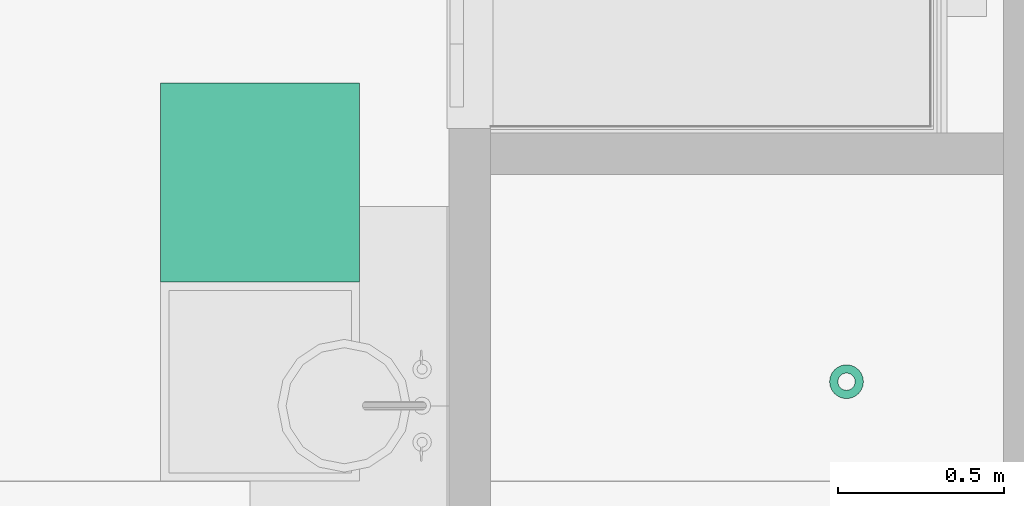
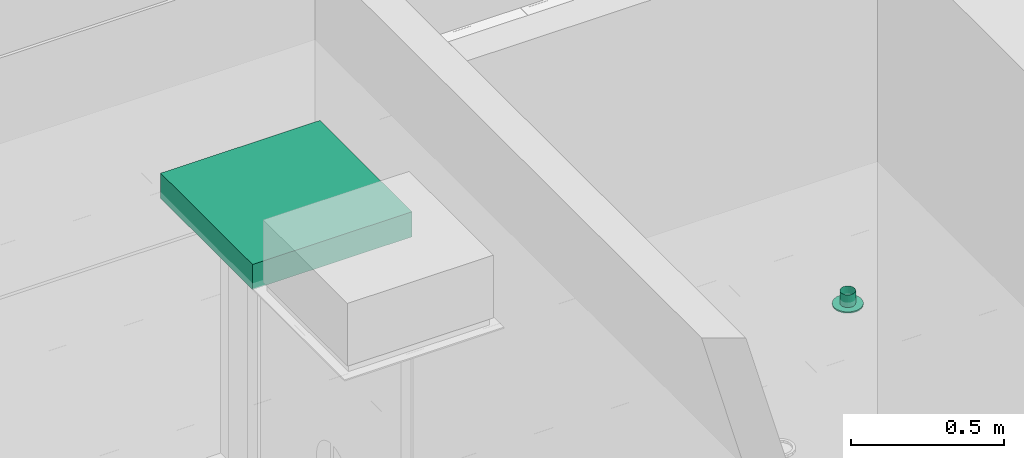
# One storey, part 206 of 347: 2 flow terminals.
"""IFC2X3 building model written with IfcOpenShell, lengths in millimetres."""

from ifc_helpers import new_model, entity, si_unit, converted_unit, derived_unit, money_unit, direction, frame, origin_with_axes, place, context, subcontext, project, spatial, open_shell, faceted_brep, surface_model, source, transform, mapped, type_object, type_shapes, element, save


model = new_model("IFC2X3")

# Units and contexts
model_context = context("Model", 3, precision=0.01, world=origin_with_axes(), true_north=direction((0.0, 1.0)))
plan_context = context("Plan", 3, precision=0.01, world=origin_with_axes(), true_north=direction((0.0, 1.0)))
body_context = subcontext(model_context, "Body", "Model", "MODEL_VIEW")
ifc_project = project(units=[si_unit("LENGTHUNIT", "METRE", prefix="MILLI"), si_unit("AREAUNIT", "SQUARE_METRE"), si_unit("VOLUMEUNIT", "CUBIC_METRE"), converted_unit("PLANEANGLEUNIT", "DEGREE", entity("IfcPlaneAngleMeasure", 0.0174532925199), si_unit("PLANEANGLEUNIT", "RADIAN"), dimensions=[0, 0, 0, 0, 0, 0, 0]), money_unit("EUR"), converted_unit("TIMEUNIT", "Year", entity("IfcTimeMeasure", 31556926.0), si_unit("TIMEUNIT", "SECOND"), dimensions=[0, 0, 1, 0, 0, 0, 0]), si_unit("MASSUNIT", "GRAM", prefix="KILO"), si_unit("THERMODYNAMICTEMPERATUREUNIT", "DEGREE_CELSIUS"), si_unit("LUMINOUSINTENSITYUNIT", "LUMEN"), si_unit("ENERGYUNIT", "JOULE", prefix="MEGA"), derived_unit("THERMALCONDUCTANCEUNIT", [(si_unit("POWERUNIT", "WATT"), 1), (si_unit("LENGTHUNIT", "METRE"), -1), (si_unit("THERMODYNAMICTEMPERATUREUNIT", "KELVIN"), -1)]), derived_unit("SPECIFICHEATCAPACITYUNIT", [(si_unit("ENERGYUNIT", "JOULE"), 1), (si_unit("MASSUNIT", "GRAM", prefix="KILO"), -1), (si_unit("THERMODYNAMICTEMPERATUREUNIT", "KELVIN"), -1)]), derived_unit("MASSDENSITYUNIT", [(si_unit("MASSUNIT", "GRAM", prefix="KILO"), 1), (si_unit("VOLUMEUNIT", "CUBIC_METRE"), -1)])], contexts=[model_context, plan_context])

# Site, building, storey
site_placement = place(None, origin_with_axes())
site = spatial("IfcSite", under=ifc_project, at=site_placement, Name="Site", CompositionType="ELEMENT")
building_placement = place(site_placement, origin_with_axes())
building = spatial("IfcBuilding", under=site, at=building_placement, Name="Naam gebouw", CompositionType="ELEMENT")
storey_placement = place(building_placement, origin_with_axes())
storey = spatial("IfcBuildingStorey", under=building, at=storey_placement, Name="begane grond", CompositionType="ELEMENT", Elevation=0.0)

# Flow terminals
lamp_type = type_object("IfcLampType", Name="TL plafond 25", PredefinedType="NOTDEFINED")
shared_shape_1 = source(origin_with_axes(), body_context, "Body", "SurfaceModel", [
    faceted_brep([(0.0, 0.0, -100.0), (600.0, 0.0, -100.0), (600.0, 0.0, 0.0), (0.0, 0.0, 0.0), (0.0, 600.0, -100.0), (600.0, 600.0, -100.0), (40.0, 40.0, -100.0), (560.0, 40.0, -100.0), (560.0, 560.0, -100.0), (40.0, 560.0, -100.0), (600.0, 600.0, 0.0), (0.0, 600.0, 0.0), (40.0, 40.0, 0.0), (40.0, 560.0, 0.0), (560.0, 560.0, 0.0), (560.0, 40.0, 0.0)], [[[0, 1, 2, 3]], [[0, 4, 5, 1], [6, 7, 8, 9]], [[1, 5, 10, 2]], [[3, 2, 10, 11], [12, 13, 14, 15]], [[4, 0, 3, 11]], [[5, 4, 11, 10]], [[7, 6, 12, 15]], [[8, 7, 15, 14]], [[9, 8, 14, 13]], [[6, 9, 13, 12]]]),
    faceted_brep([(40.0, 40.0, -16.3333333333), (560.0, 40.0, -16.3333333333), (560.0, 40.0, 0.0), (40.0, 40.0, 0.0), (40.0, 560.0, -16.3333333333), (560.0, 560.0, -16.3333333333), (560.0, 560.0, 0.0), (40.0, 560.0, 0.0)], [[[0, 1, 2, 3]], [[0, 4, 5, 1]], [[1, 5, 6, 2]], [[3, 2, 6, 7]], [[4, 0, 3, 7]], [[5, 4, 7, 6]]]),
    surface_model("IfcShellBasedSurfaceModel", [(559.0, 41.0, -100.0), (40.0, 41.0, -100.0), (40.0, 559.0, -100.0), (559.0, 559.0, -100.0)], [open_shell([[[0, 1, 2, 3]]])]),
    faceted_brep([(40.0, 40.0, -100.0), (560.0, 40.0, -100.0), (560.0, 40.0, -60.0), (40.0, 40.0, -60.0), (40.0, 560.0, -100.0), (560.0, 560.0, -100.0), (41.0, 41.0, -100.0), (559.0, 41.0, -100.0), (559.0, 559.0, -100.0), (41.0, 559.0, -100.0), (560.0, 560.0, -60.0), (40.0, 560.0, -60.0), (41.0, 41.0, -60.0), (41.0, 559.0, -60.0), (559.0, 559.0, -60.0), (559.0, 41.0, -60.0)], [[[0, 1, 2, 3]], [[0, 4, 5, 1], [6, 7, 8, 9]], [[1, 5, 10, 2]], [[3, 2, 10, 11], [12, 13, 14, 15]], [[4, 0, 3, 11]], [[5, 4, 11, 10]], [[7, 6, 12, 15]], [[8, 7, 15, 14]], [[9, 8, 14, 13]], [[6, 9, 13, 12]]]),
    faceted_brep([(40.0, 144.0, -48.3333333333), (40.0, 149.740251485, -47.191526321), (560.0, 149.740251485, -47.191526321), (560.0, 144.0, -48.3333333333), (40.0, 138.259748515, -47.191526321), (40.0, 133.393398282, -43.9399350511), (40.0, 130.141807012, -39.0735848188), (40.0, 129.0, -33.3333333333), (40.0, 130.141807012, -27.5930818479), (40.0, 133.393398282, -22.7267316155), (40.0, 138.259748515, -19.4751403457), (40.0, 144.0, -18.3333333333), (40.0, 149.740251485, -19.4751403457), (40.0, 154.606601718, -22.7267316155), (40.0, 157.858192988, -27.5930818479), (40.0, 159.0, -33.3333333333), (40.0, 157.858192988, -39.0735848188), (40.0, 154.606601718, -43.9399350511), (40.0, 144.0, -46.3333333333), (40.0, 148.974884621, -45.343767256), (40.0, 153.192388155, -42.5257214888), (40.0, 156.010433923, -38.3082179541), (40.0, 157.0, -33.3333333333), (40.0, 156.010433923, -28.3584487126), (40.0, 153.192388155, -24.1409451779), (40.0, 148.974884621, -21.3228994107), (40.0, 144.0, -20.3333333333), (40.0, 139.025115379, -21.3228994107), (40.0, 134.807611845, -24.1409451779), (40.0, 131.989566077, -28.3584487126), (40.0, 131.0, -33.3333333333), (40.0, 131.989566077, -38.3082179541), (40.0, 134.807611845, -42.5257214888), (40.0, 139.025115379, -45.343767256), (560.0, 154.606601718, -43.9399350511), (560.0, 157.858192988, -39.0735848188), (560.0, 159.0, -33.3333333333), (560.0, 157.858192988, -27.5930818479), (560.0, 154.606601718, -22.7267316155), (560.0, 149.740251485, -19.4751403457), (560.0, 144.0, -18.3333333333), (560.0, 138.259748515, -19.4751403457), (560.0, 133.393398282, -22.7267316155), (560.0, 130.141807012, -27.5930818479), (560.0, 129.0, -33.3333333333), (560.0, 130.141807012, -39.0735848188), (560.0, 133.393398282, -43.9399350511), (560.0, 138.259748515, -47.191526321), (560.0, 144.0, -46.3333333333), (560.0, 139.025115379, -45.343767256), (560.0, 134.807611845, -42.5257214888), (560.0, 131.989566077, -38.3082179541), (560.0, 131.0, -33.3333333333), (560.0, 131.989566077, -28.3584487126), (560.0, 134.807611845, -24.1409451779), (560.0, 139.025115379, -21.3228994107), (560.0, 144.0, -20.3333333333), (560.0, 148.974884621, -21.3228994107), (560.0, 153.192388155, -24.1409451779), (560.0, 156.010433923, -28.3584487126), (560.0, 157.0, -33.3333333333), (560.0, 156.010433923, -38.3082179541), (560.0, 153.192388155, -42.5257214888), (560.0, 148.974884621, -45.343767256)], [[[0, 1, 2, 3]], [[0, 4, 5, 6, 7, 8, 9, 10, 11, 12, 13, 14, 15, 16, 17, 1], [18, 19, 20, 21, 22, 23, 24, 25, 26, 27, 28, 29, 30, 31, 32, 33]], [[1, 17, 34, 2]], [[3, 2, 34, 35, 36, 37, 38, 39, 40, 41, 42, 43, 44, 45, 46, 47], [48, 49, 50, 51, 52, 53, 54, 55, 56, 57, 58, 59, 60, 61, 62, 63]], [[4, 0, 3, 47]], [[5, 4, 47, 46]], [[6, 5, 46, 45]], [[7, 6, 45, 44]], [[8, 7, 44, 43]], [[9, 8, 43, 42]], [[10, 9, 42, 41]], [[11, 10, 41, 40]], [[12, 11, 40, 39]], [[13, 12, 39, 38]], [[14, 13, 38, 37]], [[15, 14, 37, 36]], [[16, 15, 36, 35]], [[17, 16, 35, 34]], [[19, 18, 48, 63]], [[20, 19, 63, 62]], [[21, 20, 62, 61]], [[22, 21, 61, 60]], [[23, 22, 60, 59]], [[24, 23, 59, 58]], [[25, 24, 58, 57]], [[26, 25, 57, 56]], [[27, 26, 56, 55]], [[28, 27, 55, 54]], [[29, 28, 54, 53]], [[30, 29, 53, 52]], [[31, 30, 52, 51]], [[32, 31, 51, 50]], [[33, 32, 50, 49]], [[18, 33, 49, 48]]]),
    faceted_brep([(40.0, 248.0, -48.3333333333), (40.0, 253.740251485, -47.191526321), (560.0, 253.740251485, -47.191526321), (560.0, 248.0, -48.3333333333), (40.0, 242.259748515, -47.191526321), (40.0, 237.393398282, -43.9399350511), (40.0, 234.141807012, -39.0735848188), (40.0, 233.0, -33.3333333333), (40.0, 234.141807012, -27.5930818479), (40.0, 237.393398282, -22.7267316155), (40.0, 242.259748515, -19.4751403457), (40.0, 248.0, -18.3333333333), (40.0, 253.740251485, -19.4751403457), (40.0, 258.606601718, -22.7267316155), (40.0, 261.858192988, -27.5930818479), (40.0, 263.0, -33.3333333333), (40.0, 261.858192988, -39.0735848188), (40.0, 258.606601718, -43.9399350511), (40.0, 248.0, -46.3333333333), (40.0, 252.974884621, -45.343767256), (40.0, 257.192388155, -42.5257214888), (40.0, 260.010433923, -38.3082179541), (40.0, 261.0, -33.3333333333), (40.0, 260.010433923, -28.3584487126), (40.0, 257.192388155, -24.1409451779), (40.0, 252.974884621, -21.3228994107), (40.0, 248.0, -20.3333333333), (40.0, 243.025115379, -21.3228994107), (40.0, 238.807611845, -24.1409451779), (40.0, 235.989566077, -28.3584487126), (40.0, 235.0, -33.3333333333), (40.0, 235.989566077, -38.3082179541), (40.0, 238.807611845, -42.5257214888), (40.0, 243.025115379, -45.343767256), (560.0, 258.606601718, -43.9399350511), (560.0, 261.858192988, -39.0735848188), (560.0, 263.0, -33.3333333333), (560.0, 261.858192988, -27.5930818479), (560.0, 258.606601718, -22.7267316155), (560.0, 253.740251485, -19.4751403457), (560.0, 248.0, -18.3333333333), (560.0, 242.259748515, -19.4751403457), (560.0, 237.393398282, -22.7267316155), (560.0, 234.141807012, -27.5930818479), (560.0, 233.0, -33.3333333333), (560.0, 234.141807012, -39.0735848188), (560.0, 237.393398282, -43.9399350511), (560.0, 242.259748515, -47.191526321), (560.0, 248.0, -46.3333333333), (560.0, 243.025115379, -45.343767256), (560.0, 238.807611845, -42.5257214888), (560.0, 235.989566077, -38.3082179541), (560.0, 235.0, -33.3333333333), (560.0, 235.989566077, -28.3584487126), (560.0, 238.807611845, -24.1409451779), (560.0, 243.025115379, -21.3228994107), (560.0, 248.0, -20.3333333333), (560.0, 252.974884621, -21.3228994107), (560.0, 257.192388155, -24.1409451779), (560.0, 260.010433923, -28.3584487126), (560.0, 261.0, -33.3333333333), (560.0, 260.010433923, -38.3082179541), (560.0, 257.192388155, -42.5257214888), (560.0, 252.974884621, -45.343767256)], [[[0, 1, 2, 3]], [[0, 4, 5, 6, 7, 8, 9, 10, 11, 12, 13, 14, 15, 16, 17, 1], [18, 19, 20, 21, 22, 23, 24, 25, 26, 27, 28, 29, 30, 31, 32, 33]], [[1, 17, 34, 2]], [[3, 2, 34, 35, 36, 37, 38, 39, 40, 41, 42, 43, 44, 45, 46, 47], [48, 49, 50, 51, 52, 53, 54, 55, 56, 57, 58, 59, 60, 61, 62, 63]], [[4, 0, 3, 47]], [[5, 4, 47, 46]], [[6, 5, 46, 45]], [[7, 6, 45, 44]], [[8, 7, 44, 43]], [[9, 8, 43, 42]], [[10, 9, 42, 41]], [[11, 10, 41, 40]], [[12, 11, 40, 39]], [[13, 12, 39, 38]], [[14, 13, 38, 37]], [[15, 14, 37, 36]], [[16, 15, 36, 35]], [[17, 16, 35, 34]], [[19, 18, 48, 63]], [[20, 19, 63, 62]], [[21, 20, 62, 61]], [[22, 21, 61, 60]], [[23, 22, 60, 59]], [[24, 23, 59, 58]], [[25, 24, 58, 57]], [[26, 25, 57, 56]], [[27, 26, 56, 55]], [[28, 27, 55, 54]], [[29, 28, 54, 53]], [[30, 29, 53, 52]], [[31, 30, 52, 51]], [[32, 31, 51, 50]], [[33, 32, 50, 49]], [[18, 33, 49, 48]]]),
    faceted_brep([(40.0, 352.0, -48.3333333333), (40.0, 357.740251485, -47.191526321), (560.0, 357.740251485, -47.191526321), (560.0, 352.0, -48.3333333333), (40.0, 346.259748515, -47.191526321), (40.0, 341.393398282, -43.9399350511), (40.0, 338.141807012, -39.0735848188), (40.0, 337.0, -33.3333333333), (40.0, 338.141807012, -27.5930818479), (40.0, 341.393398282, -22.7267316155), (40.0, 346.259748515, -19.4751403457), (40.0, 352.0, -18.3333333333), (40.0, 357.740251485, -19.4751403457), (40.0, 362.606601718, -22.7267316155), (40.0, 365.858192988, -27.5930818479), (40.0, 367.0, -33.3333333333), (40.0, 365.858192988, -39.0735848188), (40.0, 362.606601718, -43.9399350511), (40.0, 352.0, -46.3333333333), (40.0, 356.974884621, -45.343767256), (40.0, 361.192388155, -42.5257214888), (40.0, 364.010433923, -38.3082179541), (40.0, 365.0, -33.3333333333), (40.0, 364.010433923, -28.3584487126), (40.0, 361.192388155, -24.1409451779), (40.0, 356.974884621, -21.3228994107), (40.0, 352.0, -20.3333333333), (40.0, 347.025115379, -21.3228994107), (40.0, 342.807611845, -24.1409451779), (40.0, 339.989566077, -28.3584487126), (40.0, 339.0, -33.3333333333), (40.0, 339.989566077, -38.3082179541), (40.0, 342.807611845, -42.5257214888), (40.0, 347.025115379, -45.343767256), (560.0, 362.606601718, -43.9399350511), (560.0, 365.858192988, -39.0735848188), (560.0, 367.0, -33.3333333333), (560.0, 365.858192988, -27.5930818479), (560.0, 362.606601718, -22.7267316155), (560.0, 357.740251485, -19.4751403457), (560.0, 352.0, -18.3333333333), (560.0, 346.259748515, -19.4751403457), (560.0, 341.393398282, -22.7267316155), (560.0, 338.141807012, -27.5930818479), (560.0, 337.0, -33.3333333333), (560.0, 338.141807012, -39.0735848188), (560.0, 341.393398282, -43.9399350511), (560.0, 346.259748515, -47.191526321), (560.0, 352.0, -46.3333333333), (560.0, 347.025115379, -45.343767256), (560.0, 342.807611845, -42.5257214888), (560.0, 339.989566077, -38.3082179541), (560.0, 339.0, -33.3333333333), (560.0, 339.989566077, -28.3584487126), (560.0, 342.807611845, -24.1409451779), (560.0, 347.025115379, -21.3228994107), (560.0, 352.0, -20.3333333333), (560.0, 356.974884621, -21.3228994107), (560.0, 361.192388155, -24.1409451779), (560.0, 364.010433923, -28.3584487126), (560.0, 365.0, -33.3333333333), (560.0, 364.010433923, -38.3082179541), (560.0, 361.192388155, -42.5257214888), (560.0, 356.974884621, -45.343767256)], [[[0, 1, 2, 3]], [[0, 4, 5, 6, 7, 8, 9, 10, 11, 12, 13, 14, 15, 16, 17, 1], [18, 19, 20, 21, 22, 23, 24, 25, 26, 27, 28, 29, 30, 31, 32, 33]], [[1, 17, 34, 2]], [[3, 2, 34, 35, 36, 37, 38, 39, 40, 41, 42, 43, 44, 45, 46, 47], [48, 49, 50, 51, 52, 53, 54, 55, 56, 57, 58, 59, 60, 61, 62, 63]], [[4, 0, 3, 47]], [[5, 4, 47, 46]], [[6, 5, 46, 45]], [[7, 6, 45, 44]], [[8, 7, 44, 43]], [[9, 8, 43, 42]], [[10, 9, 42, 41]], [[11, 10, 41, 40]], [[12, 11, 40, 39]], [[13, 12, 39, 38]], [[14, 13, 38, 37]], [[15, 14, 37, 36]], [[16, 15, 36, 35]], [[17, 16, 35, 34]], [[19, 18, 48, 63]], [[20, 19, 63, 62]], [[21, 20, 62, 61]], [[22, 21, 61, 60]], [[23, 22, 60, 59]], [[24, 23, 59, 58]], [[25, 24, 58, 57]], [[26, 25, 57, 56]], [[27, 26, 56, 55]], [[28, 27, 55, 54]], [[29, 28, 54, 53]], [[30, 29, 53, 52]], [[31, 30, 52, 51]], [[32, 31, 51, 50]], [[33, 32, 50, 49]], [[18, 33, 49, 48]]]),
    faceted_brep([(40.0, 456.0, -48.3333333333), (40.0, 461.740251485, -47.191526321), (560.0, 461.740251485, -47.191526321), (560.0, 456.0, -48.3333333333), (40.0, 450.259748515, -47.191526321), (40.0, 445.393398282, -43.9399350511), (40.0, 442.141807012, -39.0735848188), (40.0, 441.0, -33.3333333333), (40.0, 442.141807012, -27.5930818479), (40.0, 445.393398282, -22.7267316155), (40.0, 450.259748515, -19.4751403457), (40.0, 456.0, -18.3333333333), (40.0, 461.740251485, -19.4751403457), (40.0, 466.606601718, -22.7267316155), (40.0, 469.858192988, -27.5930818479), (40.0, 471.0, -33.3333333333), (40.0, 469.858192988, -39.0735848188), (40.0, 466.606601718, -43.9399350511), (40.0, 456.0, -46.3333333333), (40.0, 460.974884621, -45.343767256), (40.0, 465.192388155, -42.5257214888), (40.0, 468.010433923, -38.3082179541), (40.0, 469.0, -33.3333333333), (40.0, 468.010433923, -28.3584487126), (40.0, 465.192388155, -24.1409451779), (40.0, 460.974884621, -21.3228994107), (40.0, 456.0, -20.3333333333), (40.0, 451.025115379, -21.3228994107), (40.0, 446.807611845, -24.1409451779), (40.0, 443.989566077, -28.3584487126), (40.0, 443.0, -33.3333333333), (40.0, 443.989566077, -38.3082179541), (40.0, 446.807611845, -42.5257214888), (40.0, 451.025115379, -45.343767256), (560.0, 466.606601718, -43.9399350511), (560.0, 469.858192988, -39.0735848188), (560.0, 471.0, -33.3333333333), (560.0, 469.858192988, -27.5930818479), (560.0, 466.606601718, -22.7267316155), (560.0, 461.740251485, -19.4751403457), (560.0, 456.0, -18.3333333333), (560.0, 450.259748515, -19.4751403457), (560.0, 445.393398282, -22.7267316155), (560.0, 442.141807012, -27.5930818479), (560.0, 441.0, -33.3333333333), (560.0, 442.141807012, -39.0735848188), (560.0, 445.393398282, -43.9399350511), (560.0, 450.259748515, -47.191526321), (560.0, 456.0, -46.3333333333), (560.0, 451.025115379, -45.343767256), (560.0, 446.807611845, -42.5257214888), (560.0, 443.989566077, -38.3082179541), (560.0, 443.0, -33.3333333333), (560.0, 443.989566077, -28.3584487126), (560.0, 446.807611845, -24.1409451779), (560.0, 451.025115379, -21.3228994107), (560.0, 456.0, -20.3333333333), (560.0, 460.974884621, -21.3228994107), (560.0, 465.192388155, -24.1409451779), (560.0, 468.010433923, -28.3584487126), (560.0, 469.0, -33.3333333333), (560.0, 468.010433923, -38.3082179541), (560.0, 465.192388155, -42.5257214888), (560.0, 460.974884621, -45.343767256)], [[[0, 1, 2, 3]], [[0, 4, 5, 6, 7, 8, 9, 10, 11, 12, 13, 14, 15, 16, 17, 1], [18, 19, 20, 21, 22, 23, 24, 25, 26, 27, 28, 29, 30, 31, 32, 33]], [[1, 17, 34, 2]], [[3, 2, 34, 35, 36, 37, 38, 39, 40, 41, 42, 43, 44, 45, 46, 47], [48, 49, 50, 51, 52, 53, 54, 55, 56, 57, 58, 59, 60, 61, 62, 63]], [[4, 0, 3, 47]], [[5, 4, 47, 46]], [[6, 5, 46, 45]], [[7, 6, 45, 44]], [[8, 7, 44, 43]], [[9, 8, 43, 42]], [[10, 9, 42, 41]], [[11, 10, 41, 40]], [[12, 11, 40, 39]], [[13, 12, 39, 38]], [[14, 13, 38, 37]], [[15, 14, 37, 36]], [[16, 15, 36, 35]], [[17, 16, 35, 34]], [[19, 18, 48, 63]], [[20, 19, 63, 62]], [[21, 20, 62, 61]], [[22, 21, 61, 60]], [[23, 22, 60, 59]], [[24, 23, 59, 58]], [[25, 24, 58, 57]], [[26, 25, 57, 56]], [[27, 26, 56, 55]], [[28, 27, 55, 54]], [[29, 28, 54, 53]], [[30, 29, 53, 52]], [[31, 30, 52, 51]], [[32, 31, 51, 50]], [[33, 32, 50, 49]], [[18, 33, 49, 48]]]),
])
type_shapes(lamp_type, [shared_shape_1])
flow_terminal_1_placement = place(storey_placement, frame((32955.0, 10399.999972, 3295.0), z_axis=(0.0, 0.0, 1.0), x_axis=(1.0, 0.0, 0.0)))
element("IfcFlowTerminal", 1, at=flow_terminal_1_placement, inside=storey, type_object=lamp_type, Name="63_Lamp-x", ObjectType="Lamp", context=body_context, shape_type="MappedRepresentation", body=[
    mapped(shared_shape_1, transform((0.0, 0.0, 0.0))),
])
air_terminal_type = type_object("IfcAirTerminalType", Name="Rooster plafond rond 25", PredefinedType="GRILLE")
shared_shape_2 = source(origin_with_axes(), body_context, "Body", "SurfaceModel", [
    faceted_brep([(51.0, 0.0, -5.0), (49.2622171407, 13.1997713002, -5.0), (49.2622171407, 13.1997713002, 0.0), (51.0, 0.0, 0.0), (49.2622171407, -13.1997713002, -5.0), (44.167295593, -25.5, -5.0), (36.0624458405, -36.0624458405, -5.0), (25.5, -44.167295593, -5.0), (13.1997713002, -49.2622171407, -5.0), (0.0, -51.0, -5.0), (-13.1997713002, -49.2622171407, -5.0), (-25.5, -44.167295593, -5.0), (-36.0624458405, -36.0624458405, -5.0), (-44.167295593, -25.5, -5.0), (-49.2622171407, -13.1997713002, -5.0), (-51.0, 0.0, -5.0), (-49.2622171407, 13.1997713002, -5.0), (-44.167295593, 25.5, -5.0), (-36.0624458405, 36.0624458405, -5.0), (-25.5, 44.167295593, -5.0), (-13.1997713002, 49.2622171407, -5.0), (0.0, 51.0, -5.0), (13.1997713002, 49.2622171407, -5.0), (25.5, 44.167295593, -5.0), (36.0624458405, 36.0624458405, -5.0), (44.167295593, 25.5, -5.0), (26.0, 0.0, -5.0), (25.1140714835, 6.72929517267, -5.0), (22.5166604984, 13.0, -5.0), (18.3847763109, 18.3847763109, -5.0), (13.0, 22.5166604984, -5.0), (6.72929517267, 25.1140714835, -5.0), (0.0, 26.0, -5.0), (-6.72929517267, 25.1140714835, -5.0), (-13.0, 22.5166604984, -5.0), (-18.3847763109, 18.3847763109, -5.0), (-22.5166604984, 13.0, -5.0), (-25.1140714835, 6.72929517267, -5.0), (-26.0, 0.0, -5.0), (-25.1140714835, -6.72929517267, -5.0), (-22.5166604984, -13.0, -5.0), (-18.3847763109, -18.3847763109, -5.0), (-13.0, -22.5166604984, -5.0), (-6.72929517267, -25.1140714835, -5.0), (0.0, -26.0, -5.0), (6.72929517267, -25.1140714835, -5.0), (13.0, -22.5166604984, -5.0), (18.3847763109, -18.3847763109, -5.0), (22.5166604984, -13.0, -5.0), (25.1140714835, -6.72929517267, -5.0), (44.167295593, 25.5, 0.0), (36.0624458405, 36.0624458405, 0.0), (25.5, 44.167295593, 0.0), (13.1997713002, 49.2622171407, 0.0), (0.0, 51.0, 0.0), (-13.1997713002, 49.2622171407, 0.0), (-25.5, 44.167295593, 0.0), (-36.0624458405, 36.0624458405, 0.0), (-44.167295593, 25.5, 0.0), (-49.2622171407, 13.1997713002, 0.0), (-51.0, 0.0, 0.0), (-49.2622171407, -13.1997713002, 0.0), (-44.167295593, -25.5, 0.0), (-36.0624458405, -36.0624458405, 0.0), (-25.5, -44.167295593, 0.0), (-13.1997713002, -49.2622171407, 0.0), (0.0, -51.0, 0.0), (13.1997713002, -49.2622171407, 0.0), (25.5, -44.167295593, 0.0), (36.0624458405, -36.0624458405, 0.0), (44.167295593, -25.5, 0.0), (49.2622171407, -13.1997713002, 0.0), (26.0, 0.0, 0.0), (25.1140714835, -6.72929517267, 0.0), (22.5166604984, -13.0, 0.0), (18.3847763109, -18.3847763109, 0.0), (13.0, -22.5166604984, 0.0), (6.72929517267, -25.1140714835, 0.0), (0.0, -26.0, 0.0), (-6.72929517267, -25.1140714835, 0.0), (-13.0, -22.5166604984, 0.0), (-18.3847763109, -18.3847763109, 0.0), (-22.5166604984, -13.0, 0.0), (-25.1140714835, -6.72929517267, 0.0), (-26.0, 0.0, 0.0), (-25.1140714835, 6.72929517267, 0.0), (-22.5166604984, 13.0, 0.0), (-18.3847763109, 18.3847763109, 0.0), (-13.0, 22.5166604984, 0.0), (-6.72929517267, 25.1140714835, 0.0), (0.0, 26.0, 0.0), (6.72929517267, 25.1140714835, 0.0), (13.0, 22.5166604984, 0.0), (18.3847763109, 18.3847763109, 0.0), (22.5166604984, 13.0, 0.0), (25.1140714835, 6.72929517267, 0.0)], [[[0, 1, 2, 3]], [[0, 4, 5, 6, 7, 8, 9, 10, 11, 12, 13, 14, 15, 16, 17, 18, 19, 20, 21, 22, 23, 24, 25, 1], [26, 27, 28, 29, 30, 31, 32, 33, 34, 35, 36, 37, 38, 39, 40, 41, 42, 43, 44, 45, 46, 47, 48, 49]], [[1, 25, 50, 2]], [[3, 2, 50, 51, 52, 53, 54, 55, 56, 57, 58, 59, 60, 61, 62, 63, 64, 65, 66, 67, 68, 69, 70, 71], [72, 73, 74, 75, 76, 77, 78, 79, 80, 81, 82, 83, 84, 85, 86, 87, 88, 89, 90, 91, 92, 93, 94, 95]], [[4, 0, 3, 71]], [[5, 4, 71, 70]], [[6, 5, 70, 69]], [[7, 6, 69, 68]], [[8, 7, 68, 67]], [[9, 8, 67, 66]], [[10, 9, 66, 65]], [[11, 10, 65, 64]], [[12, 11, 64, 63]], [[13, 12, 63, 62]], [[14, 13, 62, 61]], [[15, 14, 61, 60]], [[16, 15, 60, 59]], [[17, 16, 59, 58]], [[18, 17, 58, 57]], [[19, 18, 57, 56]], [[20, 19, 56, 55]], [[21, 20, 55, 54]], [[22, 21, 54, 53]], [[23, 22, 53, 52]], [[24, 23, 52, 51]], [[25, 24, 51, 50]], [[27, 26, 72, 95]], [[28, 27, 95, 94]], [[29, 28, 94, 93]], [[30, 29, 93, 92]], [[31, 30, 92, 91]], [[32, 31, 91, 90]], [[33, 32, 90, 89]], [[34, 33, 89, 88]], [[35, 34, 88, 87]], [[36, 35, 87, 86]], [[37, 36, 86, 85]], [[38, 37, 85, 84]], [[39, 38, 84, 83]], [[40, 39, 83, 82]], [[41, 40, 82, 81]], [[42, 41, 81, 80]], [[43, 42, 80, 79]], [[44, 43, 79, 78]], [[45, 44, 78, 77]], [[46, 45, 77, 76]], [[47, 46, 76, 75]], [[48, 47, 75, 74]], [[49, 48, 74, 73]], [[26, 49, 73, 72]]]),
    surface_model("IfcShellBasedSurfaceModel", [(0.0, -26.0, 0.0), (6.72929517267, -25.1140714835, 0.0), (6.72929517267, -25.1140714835, 50.0), (0.0, -26.0, 50.0), (13.0, -22.5166604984, 0.0), (13.0, -22.5166604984, 50.0), (-6.72929517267, -25.1140714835, 0.0), (-6.72929517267, -25.1140714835, 50.0), (18.3847763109, -18.3847763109, 0.0), (18.3847763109, -18.3847763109, 50.0), (-13.0, -22.5166604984, 0.0), (-13.0, -22.5166604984, 50.0), (22.5166604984, -13.0, 0.0), (22.5166604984, -13.0, 50.0), (-18.3847763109, -18.3847763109, 0.0), (-18.3847763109, -18.3847763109, 50.0), (25.1140714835, -6.72929517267, 0.0), (25.1140714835, -6.72929517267, 50.0), (-22.5166604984, -13.0, 0.0), (-22.5166604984, -13.0, 50.0), (26.0, 0.0, 0.0), (26.0, 0.0, 50.0), (-25.1140714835, -6.72929517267, 0.0), (-25.1140714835, -6.72929517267, 50.0), (25.1140714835, 6.72929517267, 0.0), (25.1140714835, 6.72929517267, 50.0), (-26.0, 0.0, 0.0), (-26.0, 0.0, 50.0), (22.5166604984, 13.0, 0.0), (22.5166604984, 13.0, 50.0), (-25.1140714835, 6.72929517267, 0.0), (-25.1140714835, 6.72929517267, 50.0), (18.3847763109, 18.3847763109, 0.0), (18.3847763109, 18.3847763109, 50.0), (-22.5166604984, 13.0, 0.0), (-22.5166604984, 13.0, 50.0), (13.0, 22.5166604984, 0.0), (13.0, 22.5166604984, 50.0), (-18.3847763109, 18.3847763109, 0.0), (-18.3847763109, 18.3847763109, 50.0), (6.72929517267, 25.1140714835, 0.0), (6.72929517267, 25.1140714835, 50.0), (-13.0, 22.5166604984, 0.0), (-13.0, 22.5166604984, 50.0), (0.0, 26.0, 0.0), (0.0, 26.0, 50.0), (-6.72929517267, 25.1140714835, 0.0), (-6.72929517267, 25.1140714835, 50.0)], [open_shell([[[0, 1, 2, 3]], [[1, 4, 5, 2]], [[6, 0, 3, 7]], [[4, 8, 9, 5]], [[10, 6, 7, 11]], [[8, 12, 13, 9]], [[14, 10, 11, 15]], [[12, 16, 17, 13]], [[18, 14, 15, 19]], [[16, 20, 21, 17]], [[22, 18, 19, 23]], [[20, 24, 25, 21]], [[26, 22, 23, 27]], [[24, 28, 29, 25]], [[30, 26, 27, 31]], [[28, 32, 33, 29]], [[34, 30, 31, 35]], [[32, 36, 37, 33]], [[38, 34, 35, 39]], [[36, 40, 41, 37]], [[42, 38, 39, 43]], [[40, 44, 45, 41]], [[46, 42, 43, 47]], [[44, 46, 47, 45]]])]),
])
type_shapes(air_terminal_type, [shared_shape_2])
flow_terminal_2_placement = place(storey_placement, frame((35022.5, 10099.999972, 2600.0), z_axis=(0.0, 0.0, 1.0), x_axis=(1.0, 0.0, 0.0)))
element("IfcFlowTerminal", 2, at=flow_terminal_2_placement, inside=storey, type_object=air_terminal_type, Name="57_78 garderobe", context=body_context, shape_type="MappedRepresentation", body=[
    mapped(shared_shape_2, transform((0.0, 0.0, 0.0))),
])

save(model, "model.ifc")
